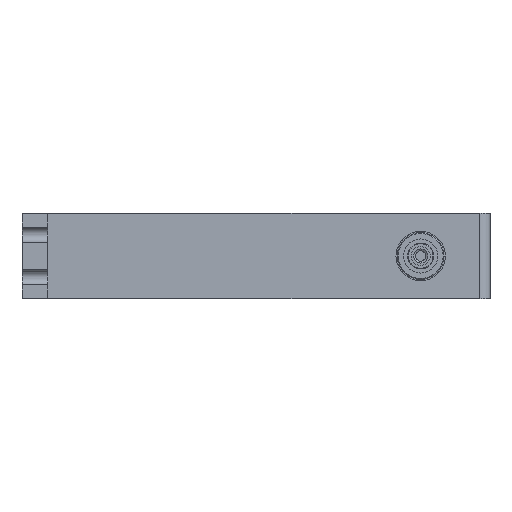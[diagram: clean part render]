
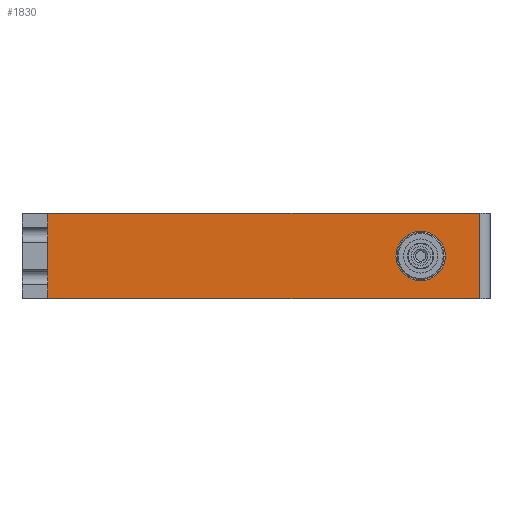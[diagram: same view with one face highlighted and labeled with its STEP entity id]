
A CAD part, front view. The second image highlights one B-rep face of the part: STEP entity #1830.
In plain terms, the highlighted planar face has unit normal (0, -1, 0).
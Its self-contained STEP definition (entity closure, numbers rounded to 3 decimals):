
#1051 = AXIS2_PLACEMENT_3D ( 'NONE', #15646, #24167, #29263 ) ;
#1540 = ORIENTED_EDGE ( 'NONE', *, *, #10431, .F. ) ;
#1830 = ADVANCED_FACE ( 'NONE', ( #22864, #35606 ), #48965, .F. ) ;
#1882 = DIRECTION ( 'NONE',  ( 0., 0., 1. ) ) ;
#2242 = ORIENTED_EDGE ( 'NONE', *, *, #12262, .F. ) ;
#3554 = LINE ( 'NONE', #22478, #18375 ) ;
#5975 = VERTEX_POINT ( 'NONE', #28152 ) ;
#7349 = EDGE_LOOP ( 'NONE', ( #2242, #32138, #9541, #44884 ) ) ;
#7855 = LINE ( 'NONE', #11526, #17290 ) ;
#8278 = CARTESIAN_POINT ( 'NONE',  ( -49., -97.5, -10. ) ) ;
#9541 = ORIENTED_EDGE ( 'NONE', *, *, #49075, .F. ) ;
#10226 = CIRCLE ( 'NONE', #40057, 5.8 ) ;
#10431 = EDGE_CURVE ( 'NONE', #5975, #38070, #10226, .T. ) ;
#10500 = CARTESIAN_POINT ( 'NONE',  ( -49., -97.5, 10. ) ) ;
#11005 = CIRCLE ( 'NONE', #1051, 5.8 ) ;
#11526 = CARTESIAN_POINT ( 'NONE',  ( -49., -97.5, -10. ) ) ;
#11617 = CARTESIAN_POINT ( 'NONE',  ( 52.5, -97.5, 10. ) ) ;
#12262 = EDGE_CURVE ( 'NONE', #15643, #49461, #51305, .T. ) ;
#14101 = DIRECTION ( 'NONE',  ( 0., 1., 0. ) ) ;
#14775 = EDGE_CURVE ( 'NONE', #27301, #15643, #7855, .T. ) ;
#15643 = VERTEX_POINT ( 'NONE', #10500 ) ;
#15646 = CARTESIAN_POINT ( 'NONE',  ( 38.7, -97.5, 0. ) ) ;
#17290 = VECTOR ( 'NONE', #28786, 1000. ) ;
#18375 = VECTOR ( 'NONE', #55474, 1000. ) ;
#22478 = CARTESIAN_POINT ( 'NONE',  ( 0., -97.5, -10. ) ) ;
#22864 = FACE_BOUND ( 'NONE', #29830, .T. ) ;
#24167 = DIRECTION ( 'NONE',  ( 0., -1., 0. ) ) ;
#24701 = DIRECTION ( 'NONE',  ( 0., -1., 0. ) ) ;
#24762 = VERTEX_POINT ( 'NONE', #43227 ) ;
#27301 = VERTEX_POINT ( 'NONE', #8278 ) ;
#28152 = CARTESIAN_POINT ( 'NONE',  ( 38.7, -97.5, 5.8 ) ) ;
#28786 = DIRECTION ( 'NONE',  ( 0., 0., 1. ) ) ;
#29263 = DIRECTION ( 'NONE',  ( 0., 0., -1. ) ) ;
#29830 = EDGE_LOOP ( 'NONE', ( #50993, #1540 ) ) ;
#32138 = ORIENTED_EDGE ( 'NONE', *, *, #14775, .F. ) ;
#32849 = DIRECTION ( 'NONE',  ( 1., 0., 0. ) ) ;
#33447 = EDGE_CURVE ( 'NONE', #38070, #5975, #11005, .T. ) ;
#35240 = CARTESIAN_POINT ( 'NONE',  ( 52.5, -97.5, 10. ) ) ;
#35606 = FACE_OUTER_BOUND ( 'NONE', #7349, .T. ) ;
#35778 = DIRECTION ( 'NONE',  ( 0., 0., -1. ) ) ;
#37438 = DIRECTION ( 'NONE',  ( 0., 0., -1. ) ) ;
#38070 = VERTEX_POINT ( 'NONE', #44961 ) ;
#40057 = AXIS2_PLACEMENT_3D ( 'NONE', #45689, #24701, #37438 ) ;
#43227 = CARTESIAN_POINT ( 'NONE',  ( 52.5, -97.5, -10. ) ) ;
#44576 = AXIS2_PLACEMENT_3D ( 'NONE', #53505, #14101, #1882 ) ;
#44884 = ORIENTED_EDGE ( 'NONE', *, *, #47027, .F. ) ;
#44961 = CARTESIAN_POINT ( 'NONE',  ( 38.7, -97.5, -5.8 ) ) ;
#45689 = CARTESIAN_POINT ( 'NONE',  ( 38.7, -97.5, 0. ) ) ;
#46174 = VECTOR ( 'NONE', #35778, 1000. ) ;
#46498 = CARTESIAN_POINT ( 'NONE',  ( -55., -97.5, 10. ) ) ;
#47027 = EDGE_CURVE ( 'NONE', #49461, #24762, #47186, .T. ) ;
#47186 = LINE ( 'NONE', #35240, #46174 ) ;
#48965 = PLANE ( 'NONE',  #44576 ) ;
#49075 = EDGE_CURVE ( 'NONE', #24762, #27301, #3554, .T. ) ;
#49461 = VERTEX_POINT ( 'NONE', #11617 ) ;
#50993 = ORIENTED_EDGE ( 'NONE', *, *, #33447, .F. ) ;
#51305 = LINE ( 'NONE', #46498, #52404 ) ;
#52404 = VECTOR ( 'NONE', #32849, 1000. ) ;
#53505 = CARTESIAN_POINT ( 'NONE',  ( -55., -97.5, 10. ) ) ;
#55474 = DIRECTION ( 'NONE',  ( -1., 0., 0. ) ) ;
